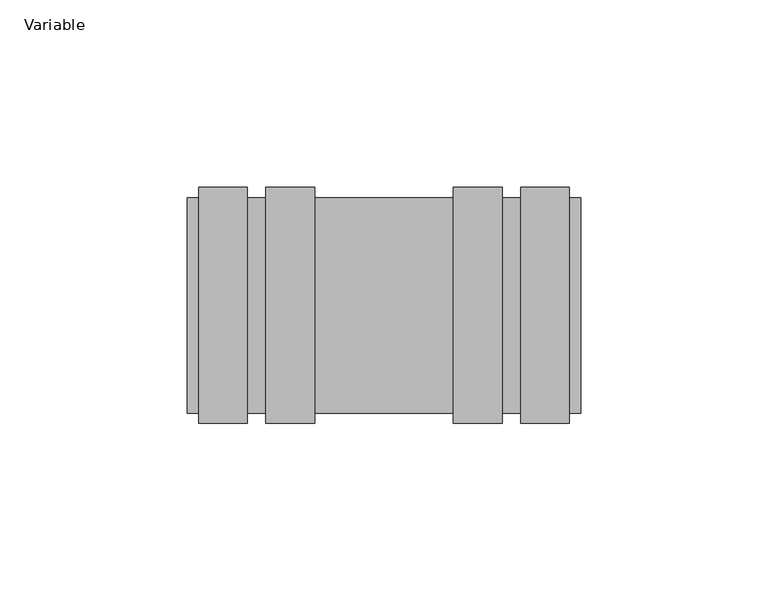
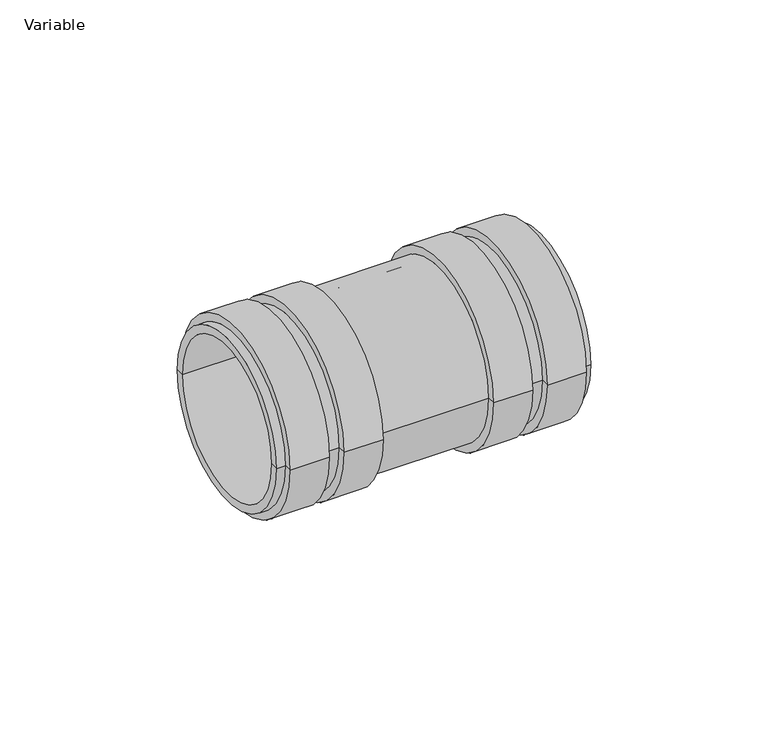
"""IFC4 building model written with IfcOpenShell, lengths in millimetres: pipe fitting geometry, AliaxisFR_Friaphon_AcousticCoupling_FR : Variable."""

from ifc_helpers import new_model, si_unit, frame, origin, place, context, project, spatial, polyline, circle_curve, source, transform, mapped, element, save
from ifc_brep_helpers import plane_surface, cylinder_surface, revolved_surface, advanced_brep


def variable_50a6ec3d(model_context):
    return source(origin(), model_context, "Body", "AdvancedBrep", [
        advanced_brep(
        [(-6.5, -21.25, 0.0), (-6.5, 21.25, 0.0), (-6.5, 26.0, 0.0), (-6.5, -26.0, 0.0), (6.5, -21.25, 0.0), (6.5, 21.25, 0.0), (6.5, -26.0, 0.0), (6.5, 26.0, 0.0), (52.5, -26.0, 0.0), (52.5, 26.0, 0.0), (52.5, -28.75, 0.0), (52.5, 28.75, 0.0), (49.5, -28.75, 0.0), (49.5, 28.75, 0.0), (49.5, -31.5, 0.0), (49.5, 31.5, 0.0), (36.5, -31.5, 0.0), (36.5, 31.5, 0.0), (36.5, -28.75, 0.0), (36.5, 28.75, 0.0), (31.5, -28.75, 0.0), (31.5, 28.75, 0.0), (31.5, -31.5, 0.0), (31.5, 31.5, 0.0), (18.5, -31.5, 0.0), (18.5, 31.5, 0.0), (18.5, -28.75, 0.0), (18.5, 28.75, 0.0), (-18.5, -28.75, 0.0), (-18.5, 28.75, 0.0), (-18.5, -31.5, 0.0), (-18.5, 31.5, 0.0), (-31.5, -31.5, 0.0), (-31.5, 31.5, 0.0), (-31.5, -28.75, 0.0), (-31.5, 28.75, 0.0), (-36.5, -28.75, 0.0), (-36.5, 28.75, 0.0), (-36.5, -31.5, 0.0), (-36.5, 31.5, 0.0), (-49.5, -31.5, 0.0), (-49.5, 31.5, 0.0), (-49.5, -28.75, 0.0), (-49.5, 28.75, 0.0), (-52.5, -28.75, 0.0), (-52.5, 28.75, 0.0), (-52.5, -26.0, 0.0), (-52.5, 26.0, 0.0)],
        [
            (0, 1, circle_curve(frame((-6.5, 0.0, 0.0), z_axis=(1.0, 0.0, 0.0), x_axis=(0.0, 1.0, 0.0)), 21.25)),
            (1, 2),
            (2, 3, circle_curve(frame((-6.5, 0.0, 0.0), z_axis=(-1.0, 0.0, 0.0), x_axis=(0.0, 1.0, 0.0)), 26.0)),
            (3, 0),
            (1, 0, circle_curve(frame((-6.5, 0.0, 0.0), z_axis=(1.0, 0.0, 0.0), x_axis=(0.0, 1.0, 0.0)), 21.25)),
            (3, 2, circle_curve(frame((-6.5, 0.0, 0.0), z_axis=(-1.0, 0.0, 0.0), x_axis=(0.0, 1.0, 0.0)), 26.0)),
            (4, 5, circle_curve(frame((6.5, 0.0, 0.0), z_axis=(1.0, 0.0, 0.0), x_axis=(0.0, 1.0, 0.0)), 21.25)),
            (5, 1),
            (0, 4),
            (5, 4, circle_curve(frame((6.5, 0.0, 0.0), z_axis=(1.0, 0.0, 0.0), x_axis=(0.0, 1.0, 0.0)), 21.25)),
            (6, 7, circle_curve(frame((6.5, 0.0, 0.0), z_axis=(1.0, 0.0, 0.0), x_axis=(0.0, 1.0, 0.0)), 26.0)),
            (7, 5),
            (4, 6),
            (7, 6, circle_curve(frame((6.5, 0.0, 0.0), z_axis=(1.0, 0.0, 0.0), x_axis=(0.0, 1.0, 0.0)), 26.0)),
            (8, 9, circle_curve(frame((52.5, 0.0, 0.0), z_axis=(1.0, 0.0, 0.0), x_axis=(0.0, 1.0, 0.0)), 26.0)),
            (9, 7),
            (6, 8),
            (9, 8, circle_curve(frame((52.5, 0.0, 0.0), z_axis=(1.0, 0.0, 0.0), x_axis=(0.0, 1.0, 0.0)), 26.0)),
            (10, 11, circle_curve(frame((52.5, 0.0, 0.0), z_axis=(1.0, 0.0, 0.0), x_axis=(0.0, 1.0, 0.0)), 28.75)),
            (11, 9),
            (8, 10),
            (11, 10, circle_curve(frame((52.5, 0.0, 0.0), z_axis=(1.0, 0.0, 0.0), x_axis=(0.0, 1.0, 0.0)), 28.75)),
            (12, 13, circle_curve(frame((49.5, 0.0, 0.0), z_axis=(1.0, 0.0, 0.0), x_axis=(0.0, 1.0, 0.0)), 28.75)),
            (13, 11),
            (10, 12),
            (13, 12, circle_curve(frame((49.5, 0.0, 0.0), z_axis=(1.0, 0.0, 0.0), x_axis=(0.0, 1.0, 0.0)), 28.75)),
            (14, 15, circle_curve(frame((49.5, 0.0, 0.0), z_axis=(1.0, 0.0, 0.0), x_axis=(0.0, 1.0, 0.0)), 31.5)),
            (15, 13),
            (12, 14),
            (15, 14, circle_curve(frame((49.5, 0.0, 0.0), z_axis=(1.0, 0.0, 0.0), x_axis=(0.0, 1.0, 0.0)), 31.5)),
            (16, 17, circle_curve(frame((36.5, 0.0, 0.0), z_axis=(1.0, 0.0, 0.0), x_axis=(0.0, 1.0, 0.0)), 31.5)),
            (17, 15),
            (14, 16),
            (17, 16, circle_curve(frame((36.5, 0.0, 0.0), z_axis=(1.0, 0.0, 0.0), x_axis=(0.0, 1.0, 0.0)), 31.5)),
            (18, 19, circle_curve(frame((36.5, 0.0, 0.0), z_axis=(1.0, 0.0, 0.0), x_axis=(0.0, 1.0, 0.0)), 28.75)),
            (19, 17),
            (16, 18),
            (19, 18, circle_curve(frame((36.5, 0.0, 0.0), z_axis=(1.0, 0.0, 0.0), x_axis=(0.0, 1.0, 0.0)), 28.75)),
            (20, 21, circle_curve(frame((31.5, 0.0, 0.0), z_axis=(1.0, 0.0, 0.0), x_axis=(0.0, 1.0, 0.0)), 28.75)),
            (21, 19),
            (18, 20),
            (21, 20, circle_curve(frame((31.5, 0.0, 0.0), z_axis=(1.0, 0.0, 0.0), x_axis=(0.0, 1.0, 0.0)), 28.75)),
            (22, 23, circle_curve(frame((31.5, 0.0, 0.0), z_axis=(1.0, 0.0, 0.0), x_axis=(0.0, 1.0, 0.0)), 31.5)),
            (23, 21),
            (20, 22),
            (23, 22, circle_curve(frame((31.5, 0.0, 0.0), z_axis=(1.0, 0.0, 0.0), x_axis=(0.0, 1.0, 0.0)), 31.5)),
            (24, 25, circle_curve(frame((18.5, 0.0, 0.0), z_axis=(1.0, 0.0, 0.0), x_axis=(0.0, 1.0, 0.0)), 31.5)),
            (25, 23),
            (22, 24),
            (25, 24, circle_curve(frame((18.5, 0.0, 0.0), z_axis=(1.0, 0.0, 0.0), x_axis=(0.0, 1.0, 0.0)), 31.5)),
            (26, 27, circle_curve(frame((18.5, 0.0, 0.0), z_axis=(1.0, 0.0, 0.0), x_axis=(0.0, 1.0, 0.0)), 28.75)),
            (27, 25),
            (24, 26),
            (27, 26, circle_curve(frame((18.5, 0.0, 0.0), z_axis=(1.0, 0.0, 0.0), x_axis=(0.0, 1.0, 0.0)), 28.75)),
            (28, 29, circle_curve(frame((-18.5, 0.0, 0.0), z_axis=(1.0, 0.0, 0.0), x_axis=(0.0, 1.0, 0.0)), 28.75)),
            (29, 27),
            (26, 28),
            (29, 28, circle_curve(frame((-18.5, 0.0, 0.0), z_axis=(1.0, 0.0, 0.0), x_axis=(0.0, 1.0, 0.0)), 28.75)),
            (30, 31, circle_curve(frame((-18.5, 0.0, 0.0), z_axis=(1.0, 0.0, 0.0), x_axis=(0.0, 1.0, 0.0)), 31.5)),
            (31, 29),
            (28, 30),
            (31, 30, circle_curve(frame((-18.5, 0.0, 0.0), z_axis=(1.0, 0.0, 0.0), x_axis=(0.0, 1.0, 0.0)), 31.5)),
            (32, 33, circle_curve(frame((-31.5, 0.0, 0.0), z_axis=(1.0, 0.0, 0.0), x_axis=(0.0, 1.0, 0.0)), 31.5)),
            (33, 31),
            (30, 32),
            (33, 32, circle_curve(frame((-31.5, 0.0, 0.0), z_axis=(1.0, 0.0, 0.0), x_axis=(0.0, 1.0, 0.0)), 31.5)),
            (34, 35, circle_curve(frame((-31.5, 0.0, 0.0), z_axis=(1.0, 0.0, 0.0), x_axis=(0.0, 1.0, 0.0)), 28.75)),
            (35, 33),
            (32, 34),
            (35, 34, circle_curve(frame((-31.5, 0.0, 0.0), z_axis=(1.0, 0.0, 0.0), x_axis=(0.0, 1.0, 0.0)), 28.75)),
            (36, 37, circle_curve(frame((-36.5, 0.0, 0.0), z_axis=(1.0, 0.0, 0.0), x_axis=(0.0, 1.0, 0.0)), 28.75)),
            (37, 35),
            (34, 36),
            (37, 36, circle_curve(frame((-36.5, 0.0, 0.0), z_axis=(1.0, 0.0, 0.0), x_axis=(0.0, 1.0, 0.0)), 28.75)),
            (38, 39, circle_curve(frame((-36.5, 0.0, 0.0), z_axis=(1.0, 0.0, 0.0), x_axis=(0.0, 1.0, 0.0)), 31.5)),
            (39, 37),
            (36, 38),
            (39, 38, circle_curve(frame((-36.5, 0.0, 0.0), z_axis=(1.0, 0.0, 0.0), x_axis=(0.0, 1.0, 0.0)), 31.5)),
            (40, 41, circle_curve(frame((-49.5, 0.0, 0.0), z_axis=(1.0, 0.0, 0.0), x_axis=(0.0, 1.0, 0.0)), 31.5)),
            (41, 39),
            (38, 40),
            (41, 40, circle_curve(frame((-49.5, 0.0, 0.0), z_axis=(1.0, 0.0, 0.0), x_axis=(0.0, 1.0, 0.0)), 31.5)),
            (42, 43, circle_curve(frame((-49.5, 0.0, 0.0), z_axis=(1.0, 0.0, 0.0), x_axis=(0.0, 1.0, 0.0)), 28.75)),
            (43, 41),
            (40, 42),
            (43, 42, circle_curve(frame((-49.5, 0.0, 0.0), z_axis=(1.0, 0.0, 0.0), x_axis=(0.0, 1.0, 0.0)), 28.75)),
            (44, 45, circle_curve(frame((-52.5, 0.0, 0.0), z_axis=(1.0, 0.0, 0.0), x_axis=(0.0, 1.0, 0.0)), 28.75)),
            (45, 43),
            (42, 44),
            (45, 44, circle_curve(frame((-52.5, 0.0, 0.0), z_axis=(1.0, 0.0, 0.0), x_axis=(0.0, 1.0, 0.0)), 28.75)),
            (46, 47, circle_curve(frame((-52.5, 0.0, 0.0), z_axis=(1.0, 0.0, 0.0), x_axis=(0.0, 1.0, 0.0)), 26.0)),
            (47, 45),
            (44, 46),
            (47, 46, circle_curve(frame((-52.5, 0.0, 0.0), z_axis=(1.0, 0.0, 0.0), x_axis=(0.0, 1.0, 0.0)), 26.0)),
            (2, 47),
            (46, 3),
        ],
        [
            plane_surface(frame((-6.5, 0.0, 0.0), z_axis=(-1.0, 0.0, 0.0), x_axis=(0.0, 1.0, 0.0))),
            revolved_surface(polyline([(-6.5, 21.25, 0.0), (6.5, 21.25, 0.0)]), (2000.5, 0.0, 0.0), (-1.0, 0.0, 0.0)),
            plane_surface(frame((6.5, 0.0, 0.0), z_axis=(1.0, 0.0, 0.0), x_axis=(0.0, 1.0, 0.0))),
            revolved_surface(polyline([(6.5, 26.0, 0.0), (52.5, 26.0, 0.0)]), (2000.5, 0.0, 0.0), (-1.0, 0.0, 0.0)),
            plane_surface(frame((52.5, 0.0, 0.0), z_axis=(1.0, 0.0, 0.0), x_axis=(0.0, 1.0, 0.0))),
            cylinder_surface(frame((2000.5, 0.0, 0.0), z_axis=(-1.0, 0.0, 0.0), x_axis=(0.0, 1.0, 0.0)), 28.75),
            plane_surface(frame((49.5, 0.0, 0.0), z_axis=(1.0, 0.0, 0.0), x_axis=(0.0, 1.0, 0.0))),
            cylinder_surface(frame((2000.5, 0.0, 0.0), z_axis=(-1.0, 0.0, 0.0), x_axis=(0.0, 1.0, 0.0)), 31.5),
            plane_surface(frame((36.5, 0.0, 0.0), z_axis=(-1.0, 0.0, 0.0), x_axis=(0.0, 1.0, 0.0))),
            plane_surface(frame((31.5, 0.0, 0.0), z_axis=(1.0, 0.0, 0.0), x_axis=(0.0, 1.0, 0.0))),
            plane_surface(frame((18.5, 0.0, 0.0), z_axis=(-1.0, 0.0, 0.0), x_axis=(0.0, 1.0, 0.0))),
            plane_surface(frame((-18.5, 0.0, 0.0), z_axis=(1.0, 0.0, 0.0), x_axis=(0.0, 1.0, 0.0))),
            plane_surface(frame((-31.5, 0.0, 0.0), z_axis=(-1.0, 0.0, 0.0), x_axis=(0.0, 1.0, 0.0))),
            plane_surface(frame((-36.5, 0.0, 0.0), z_axis=(1.0, 0.0, 0.0), x_axis=(0.0, 1.0, 0.0))),
            plane_surface(frame((-49.5, 0.0, 0.0), z_axis=(-1.0, 0.0, 0.0), x_axis=(0.0, 1.0, 0.0))),
            plane_surface(frame((-52.5, 0.0, 0.0), z_axis=(-1.0, 0.0, 0.0), x_axis=(0.0, 1.0, 0.0))),
            revolved_surface(polyline([(-52.5, 26.0, 0.0), (-6.5, 26.0, 0.0)]), (2000.5, 0.0, 0.0), (-1.0, 0.0, 0.0)),
        ],
        [
            (0, [[1, 2, 3, 4]]),
            (0, [[5, -4, 6, -2]]),
            (1, [[7, 8, -1, 9]]),
            (1, [[10, -9, -5, -8]]),
            (2, [[11, 12, -7, 13]]),
            (2, [[14, -13, -10, -12]]),
            (3, [[15, 16, -11, 17]]),
            (3, [[18, -17, -14, -16]]),
            (4, [[19, 20, -15, 21]]),
            (4, [[22, -21, -18, -20]]),
            (5, [[23, 24, -19, 25]]),
            (5, [[26, -25, -22, -24]]),
            (6, [[27, 28, -23, 29]]),
            (6, [[30, -29, -26, -28]]),
            (7, [[31, 32, -27, 33]]),
            (7, [[34, -33, -30, -32]]),
            (8, [[35, 36, -31, 37]]),
            (8, [[38, -37, -34, -36]]),
            (5, [[39, 40, -35, 41]]),
            (5, [[42, -41, -38, -40]]),
            (9, [[43, 44, -39, 45]]),
            (9, [[46, -45, -42, -44]]),
            (7, [[47, 48, -43, 49]]),
            (7, [[50, -49, -46, -48]]),
            (10, [[51, 52, -47, 53]]),
            (10, [[54, -53, -50, -52]]),
            (5, [[55, 56, -51, 57]]),
            (5, [[58, -57, -54, -56]]),
            (11, [[59, 60, -55, 61]]),
            (11, [[62, -61, -58, -60]]),
            (7, [[63, 64, -59, 65]]),
            (7, [[66, -65, -62, -64]]),
            (12, [[67, 68, -63, 69]]),
            (12, [[70, -69, -66, -68]]),
            (5, [[71, 72, -67, 73]]),
            (5, [[74, -73, -70, -72]]),
            (13, [[75, 76, -71, 77]]),
            (13, [[78, -77, -74, -76]]),
            (7, [[79, 80, -75, 81]]),
            (7, [[82, -81, -78, -80]]),
            (14, [[83, 84, -79, 85]]),
            (14, [[86, -85, -82, -84]]),
            (5, [[87, 88, -83, 89]]),
            (5, [[90, -89, -86, -88]]),
            (15, [[91, 92, -87, 93]]),
            (15, [[94, -93, -90, -92]]),
            (16, [[-3, 95, -91, 96]]),
            (16, [[-6, -96, -94, -95]]),
        ],
    ),
    ])


if __name__ == "__main__":
    model = new_model("IFC4")
    model_context = context("Model", 3, world=origin())
    ifc_project = project(units=[si_unit("LENGTHUNIT", "METRE", prefix="MILLI")], contexts=[model_context])
    site = spatial("IfcSite", under=ifc_project)
    building = spatial("IfcBuilding", under=site)
    placement = place(None, origin())
    variable_shape = variable_50a6ec3d(model_context)
    element("IfcPipeFitting", 1, ObjectType="AliaxisFR_Friaphon_AcousticCoupling_FR : Variable", at=placement, inside=building, context=model_context, shape_type="MappedRepresentation", body=[
        mapped(variable_shape, transform((0.0, 0.0, 0.0), x_axis=(1.0, 0.0, 0.0), y_axis=(0.0, 1.0, 0.0), z_axis=(0.0, 0.0, 1.0))),
    ])
    save(model, "model.ifc")
